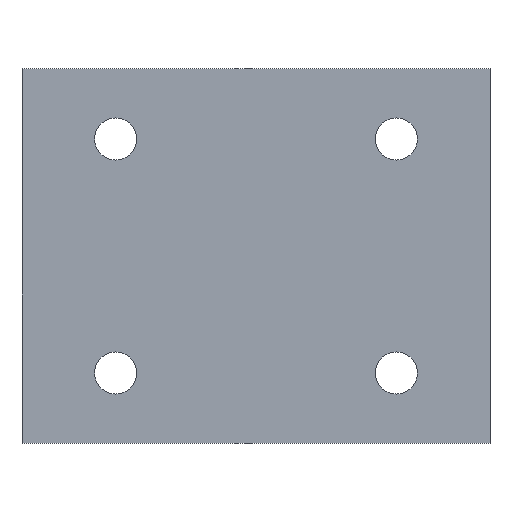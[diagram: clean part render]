
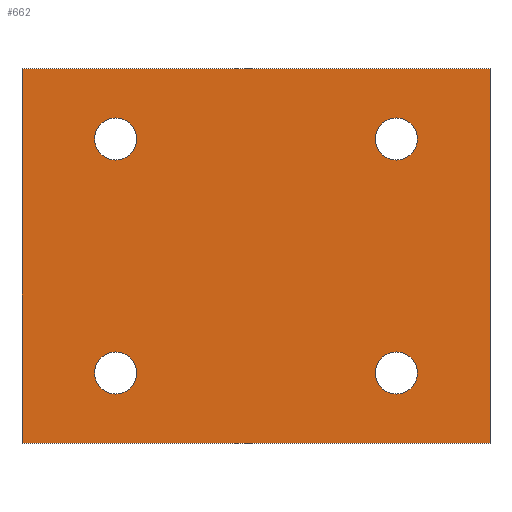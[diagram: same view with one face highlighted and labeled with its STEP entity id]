
A CAD part, top view. The second image highlights one B-rep face of the part: STEP entity #662.
In plain terms, the highlighted planar face has unit normal (0, 0, 1).
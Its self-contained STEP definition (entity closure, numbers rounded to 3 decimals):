
#24 = VERTEX_POINT('',#25);
#25 = CARTESIAN_POINT('',(-100.,-80.,20.));
#32 = PLANE('',#33);
#33 = AXIS2_PLACEMENT_3D('',#34,#35,#36);
#34 = CARTESIAN_POINT('',(-100.,-80.,0.));
#35 = DIRECTION('',(0.,1.,0.));
#36 = DIRECTION('',(1.,0.,0.));
#44 = PLANE('',#45);
#45 = AXIS2_PLACEMENT_3D('',#46,#47,#48);
#46 = CARTESIAN_POINT('',(-100.,80.,0.));
#47 = DIRECTION('',(1.,0.,-0.));
#48 = DIRECTION('',(0.,-1.,0.));
#56 = EDGE_CURVE('',#24,#57,#59,.T.);
#57 = VERTEX_POINT('',#58);
#58 = CARTESIAN_POINT('',(100.,-80.,20.));
#59 = SURFACE_CURVE('',#60,(#64,#71),.PCURVE_S1.);
#60 = LINE('',#61,#62);
#61 = CARTESIAN_POINT('',(-100.,-80.,20.));
#62 = VECTOR('',#63,1.);
#63 = DIRECTION('',(1.,0.,0.));
#64 = PCURVE('',#32,#65);
#65 = DEFINITIONAL_REPRESENTATION('',(#66),#70);
#66 = LINE('',#67,#68);
#67 = CARTESIAN_POINT('',(0.,-20.));
#68 = VECTOR('',#69,1.);
#69 = DIRECTION('',(1.,0.));
#70 = ( GEOMETRIC_REPRESENTATION_CONTEXT(2) 
PARAMETRIC_REPRESENTATION_CONTEXT() REPRESENTATION_CONTEXT('2D SPACE',''
  ) );
#71 = PCURVE('',#72,#77);
#72 = PLANE('',#73);
#73 = AXIS2_PLACEMENT_3D('',#74,#75,#76);
#74 = CARTESIAN_POINT('',(0.,0.,20.));
#75 = DIRECTION('',(0.,0.,1.));
#76 = DIRECTION('',(1.,0.,-0.));
#77 = DEFINITIONAL_REPRESENTATION('',(#78),#82);
#78 = LINE('',#79,#80);
#79 = CARTESIAN_POINT('',(-100.,-80.));
#80 = VECTOR('',#81,1.);
#81 = DIRECTION('',(1.,0.));
#82 = ( GEOMETRIC_REPRESENTATION_CONTEXT(2) 
PARAMETRIC_REPRESENTATION_CONTEXT() REPRESENTATION_CONTEXT('2D SPACE',''
  ) );
#100 = PLANE('',#101);
#101 = AXIS2_PLACEMENT_3D('',#102,#103,#104);
#102 = CARTESIAN_POINT('',(100.,-80.,0.));
#103 = DIRECTION('',(-1.,0.,0.));
#104 = DIRECTION('',(0.,1.,0.));
#142 = EDGE_CURVE('',#57,#143,#145,.T.);
#143 = VERTEX_POINT('',#144);
#144 = CARTESIAN_POINT('',(100.,80.,20.));
#145 = SURFACE_CURVE('',#146,(#150,#157),.PCURVE_S1.);
#146 = LINE('',#147,#148);
#147 = CARTESIAN_POINT('',(100.,-80.,20.));
#148 = VECTOR('',#149,1.);
#149 = DIRECTION('',(0.,1.,0.));
#150 = PCURVE('',#100,#151);
#151 = DEFINITIONAL_REPRESENTATION('',(#152),#156);
#152 = LINE('',#153,#154);
#153 = CARTESIAN_POINT('',(0.,-20.));
#154 = VECTOR('',#155,1.);
#155 = DIRECTION('',(1.,0.));
#156 = ( GEOMETRIC_REPRESENTATION_CONTEXT(2) 
PARAMETRIC_REPRESENTATION_CONTEXT() REPRESENTATION_CONTEXT('2D SPACE',''
  ) );
#157 = PCURVE('',#72,#158);
#158 = DEFINITIONAL_REPRESENTATION('',(#159),#163);
#159 = LINE('',#160,#161);
#160 = CARTESIAN_POINT('',(100.,-80.));
#161 = VECTOR('',#162,1.);
#162 = DIRECTION('',(0.,1.));
#163 = ( GEOMETRIC_REPRESENTATION_CONTEXT(2) 
PARAMETRIC_REPRESENTATION_CONTEXT() REPRESENTATION_CONTEXT('2D SPACE',''
  ) );
#181 = PLANE('',#182);
#182 = AXIS2_PLACEMENT_3D('',#183,#184,#185);
#183 = CARTESIAN_POINT('',(100.,80.,0.));
#184 = DIRECTION('',(0.,-1.,0.));
#185 = DIRECTION('',(-1.,0.,0.));
#218 = EDGE_CURVE('',#143,#219,#221,.T.);
#219 = VERTEX_POINT('',#220);
#220 = CARTESIAN_POINT('',(-100.,80.,20.));
#221 = SURFACE_CURVE('',#222,(#226,#233),.PCURVE_S1.);
#222 = LINE('',#223,#224);
#223 = CARTESIAN_POINT('',(100.,80.,20.));
#224 = VECTOR('',#225,1.);
#225 = DIRECTION('',(-1.,0.,0.));
#226 = PCURVE('',#181,#227);
#227 = DEFINITIONAL_REPRESENTATION('',(#228),#232);
#228 = LINE('',#229,#230);
#229 = CARTESIAN_POINT('',(0.,-20.));
#230 = VECTOR('',#231,1.);
#231 = DIRECTION('',(1.,0.));
#232 = ( GEOMETRIC_REPRESENTATION_CONTEXT(2) 
PARAMETRIC_REPRESENTATION_CONTEXT() REPRESENTATION_CONTEXT('2D SPACE',''
  ) );
#233 = PCURVE('',#72,#234);
#234 = DEFINITIONAL_REPRESENTATION('',(#235),#239);
#235 = LINE('',#236,#237);
#236 = CARTESIAN_POINT('',(100.,80.));
#237 = VECTOR('',#238,1.);
#238 = DIRECTION('',(-1.,0.));
#239 = ( GEOMETRIC_REPRESENTATION_CONTEXT(2) 
PARAMETRIC_REPRESENTATION_CONTEXT() REPRESENTATION_CONTEXT('2D SPACE',''
  ) );
#289 = EDGE_CURVE('',#219,#24,#290,.T.);
#290 = SURFACE_CURVE('',#291,(#295,#302),.PCURVE_S1.);
#291 = LINE('',#292,#293);
#292 = CARTESIAN_POINT('',(-100.,80.,20.));
#293 = VECTOR('',#294,1.);
#294 = DIRECTION('',(0.,-1.,0.));
#295 = PCURVE('',#44,#296);
#296 = DEFINITIONAL_REPRESENTATION('',(#297),#301);
#297 = LINE('',#298,#299);
#298 = CARTESIAN_POINT('',(0.,-20.));
#299 = VECTOR('',#300,1.);
#300 = DIRECTION('',(1.,0.));
#301 = ( GEOMETRIC_REPRESENTATION_CONTEXT(2) 
PARAMETRIC_REPRESENTATION_CONTEXT() REPRESENTATION_CONTEXT('2D SPACE',''
  ) );
#302 = PCURVE('',#72,#303);
#303 = DEFINITIONAL_REPRESENTATION('',(#304),#308);
#304 = LINE('',#305,#306);
#305 = CARTESIAN_POINT('',(-100.,80.));
#306 = VECTOR('',#307,1.);
#307 = DIRECTION('',(0.,-1.));
#308 = ( GEOMETRIC_REPRESENTATION_CONTEXT(2) 
PARAMETRIC_REPRESENTATION_CONTEXT() REPRESENTATION_CONTEXT('2D SPACE',''
  ) );
#338 = VERTEX_POINT('',#339);
#339 = CARTESIAN_POINT('',(-51.,-50.,20.));
#346 = CYLINDRICAL_SURFACE('',#347,9.);
#347 = AXIS2_PLACEMENT_3D('',#348,#349,#350);
#348 = CARTESIAN_POINT('',(-60.,-50.,0.));
#349 = DIRECTION('',(-0.,-0.,-1.));
#350 = DIRECTION('',(1.,0.,-0.));
#365 = EDGE_CURVE('',#338,#338,#366,.T.);
#366 = SURFACE_CURVE('',#367,(#372,#379),.PCURVE_S1.);
#367 = CIRCLE('',#368,9.);
#368 = AXIS2_PLACEMENT_3D('',#369,#370,#371);
#369 = CARTESIAN_POINT('',(-60.,-50.,20.));
#370 = DIRECTION('',(0.,0.,1.));
#371 = DIRECTION('',(1.,0.,-0.));
#372 = PCURVE('',#346,#373);
#373 = DEFINITIONAL_REPRESENTATION('',(#374),#378);
#374 = LINE('',#375,#376);
#375 = CARTESIAN_POINT('',(-0.,-20.));
#376 = VECTOR('',#377,1.);
#377 = DIRECTION('',(-1.,0.));
#378 = ( GEOMETRIC_REPRESENTATION_CONTEXT(2) 
PARAMETRIC_REPRESENTATION_CONTEXT() REPRESENTATION_CONTEXT('2D SPACE',''
  ) );
#379 = PCURVE('',#72,#380);
#380 = DEFINITIONAL_REPRESENTATION('',(#381),#385);
#381 = CIRCLE('',#382,9.);
#382 = AXIS2_PLACEMENT_2D('',#383,#384);
#383 = CARTESIAN_POINT('',(-60.,-50.));
#384 = DIRECTION('',(1.,0.));
#385 = ( GEOMETRIC_REPRESENTATION_CONTEXT(2) 
PARAMETRIC_REPRESENTATION_CONTEXT() REPRESENTATION_CONTEXT('2D SPACE',''
  ) );
#416 = VERTEX_POINT('',#417);
#417 = CARTESIAN_POINT('',(-51.,50.,20.));
#424 = CYLINDRICAL_SURFACE('',#425,9.);
#425 = AXIS2_PLACEMENT_3D('',#426,#427,#428);
#426 = CARTESIAN_POINT('',(-60.,50.,0.));
#427 = DIRECTION('',(-0.,-0.,-1.));
#428 = DIRECTION('',(1.,0.,-0.));
#443 = EDGE_CURVE('',#416,#416,#444,.T.);
#444 = SURFACE_CURVE('',#445,(#450,#457),.PCURVE_S1.);
#445 = CIRCLE('',#446,9.);
#446 = AXIS2_PLACEMENT_3D('',#447,#448,#449);
#447 = CARTESIAN_POINT('',(-60.,50.,20.));
#448 = DIRECTION('',(0.,0.,1.));
#449 = DIRECTION('',(1.,0.,-0.));
#450 = PCURVE('',#424,#451);
#451 = DEFINITIONAL_REPRESENTATION('',(#452),#456);
#452 = LINE('',#453,#454);
#453 = CARTESIAN_POINT('',(-0.,-20.));
#454 = VECTOR('',#455,1.);
#455 = DIRECTION('',(-1.,0.));
#456 = ( GEOMETRIC_REPRESENTATION_CONTEXT(2) 
PARAMETRIC_REPRESENTATION_CONTEXT() REPRESENTATION_CONTEXT('2D SPACE',''
  ) );
#457 = PCURVE('',#72,#458);
#458 = DEFINITIONAL_REPRESENTATION('',(#459),#463);
#459 = CIRCLE('',#460,9.);
#460 = AXIS2_PLACEMENT_2D('',#461,#462);
#461 = CARTESIAN_POINT('',(-60.,50.));
#462 = DIRECTION('',(1.,0.));
#463 = ( GEOMETRIC_REPRESENTATION_CONTEXT(2) 
PARAMETRIC_REPRESENTATION_CONTEXT() REPRESENTATION_CONTEXT('2D SPACE',''
  ) );
#494 = VERTEX_POINT('',#495);
#495 = CARTESIAN_POINT('',(69.,-50.,20.));
#502 = CYLINDRICAL_SURFACE('',#503,9.);
#503 = AXIS2_PLACEMENT_3D('',#504,#505,#506);
#504 = CARTESIAN_POINT('',(60.,-50.,0.));
#505 = DIRECTION('',(-0.,-0.,-1.));
#506 = DIRECTION('',(1.,0.,-0.));
#521 = EDGE_CURVE('',#494,#494,#522,.T.);
#522 = SURFACE_CURVE('',#523,(#528,#535),.PCURVE_S1.);
#523 = CIRCLE('',#524,9.);
#524 = AXIS2_PLACEMENT_3D('',#525,#526,#527);
#525 = CARTESIAN_POINT('',(60.,-50.,20.));
#526 = DIRECTION('',(0.,0.,1.));
#527 = DIRECTION('',(1.,0.,-0.));
#528 = PCURVE('',#502,#529);
#529 = DEFINITIONAL_REPRESENTATION('',(#530),#534);
#530 = LINE('',#531,#532);
#531 = CARTESIAN_POINT('',(-0.,-20.));
#532 = VECTOR('',#533,1.);
#533 = DIRECTION('',(-1.,0.));
#534 = ( GEOMETRIC_REPRESENTATION_CONTEXT(2) 
PARAMETRIC_REPRESENTATION_CONTEXT() REPRESENTATION_CONTEXT('2D SPACE',''
  ) );
#535 = PCURVE('',#72,#536);
#536 = DEFINITIONAL_REPRESENTATION('',(#537),#541);
#537 = CIRCLE('',#538,9.);
#538 = AXIS2_PLACEMENT_2D('',#539,#540);
#539 = CARTESIAN_POINT('',(60.,-50.));
#540 = DIRECTION('',(1.,0.));
#541 = ( GEOMETRIC_REPRESENTATION_CONTEXT(2) 
PARAMETRIC_REPRESENTATION_CONTEXT() REPRESENTATION_CONTEXT('2D SPACE',''
  ) );
#572 = VERTEX_POINT('',#573);
#573 = CARTESIAN_POINT('',(69.,50.,20.));
#580 = CYLINDRICAL_SURFACE('',#581,9.);
#581 = AXIS2_PLACEMENT_3D('',#582,#583,#584);
#582 = CARTESIAN_POINT('',(60.,50.,0.));
#583 = DIRECTION('',(-0.,-0.,-1.));
#584 = DIRECTION('',(1.,0.,-0.));
#599 = EDGE_CURVE('',#572,#572,#600,.T.);
#600 = SURFACE_CURVE('',#601,(#606,#613),.PCURVE_S1.);
#601 = CIRCLE('',#602,9.);
#602 = AXIS2_PLACEMENT_3D('',#603,#604,#605);
#603 = CARTESIAN_POINT('',(60.,50.,20.));
#604 = DIRECTION('',(0.,0.,1.));
#605 = DIRECTION('',(1.,0.,-0.));
#606 = PCURVE('',#580,#607);
#607 = DEFINITIONAL_REPRESENTATION('',(#608),#612);
#608 = LINE('',#609,#610);
#609 = CARTESIAN_POINT('',(-0.,-20.));
#610 = VECTOR('',#611,1.);
#611 = DIRECTION('',(-1.,0.));
#612 = ( GEOMETRIC_REPRESENTATION_CONTEXT(2) 
PARAMETRIC_REPRESENTATION_CONTEXT() REPRESENTATION_CONTEXT('2D SPACE',''
  ) );
#613 = PCURVE('',#72,#614);
#614 = DEFINITIONAL_REPRESENTATION('',(#615),#619);
#615 = CIRCLE('',#616,9.);
#616 = AXIS2_PLACEMENT_2D('',#617,#618);
#617 = CARTESIAN_POINT('',(60.,50.));
#618 = DIRECTION('',(1.,0.));
#619 = ( GEOMETRIC_REPRESENTATION_CONTEXT(2) 
PARAMETRIC_REPRESENTATION_CONTEXT() REPRESENTATION_CONTEXT('2D SPACE',''
  ) );
#662 = ADVANCED_FACE('',(#663,#669,#672,#675,#678),#72,.T.);
#663 = FACE_BOUND('',#664,.T.);
#664 = EDGE_LOOP('',(#665,#666,#667,#668));
#665 = ORIENTED_EDGE('',*,*,#56,.T.);
#666 = ORIENTED_EDGE('',*,*,#142,.T.);
#667 = ORIENTED_EDGE('',*,*,#218,.T.);
#668 = ORIENTED_EDGE('',*,*,#289,.T.);
#669 = FACE_BOUND('',#670,.F.);
#670 = EDGE_LOOP('',(#671));
#671 = ORIENTED_EDGE('',*,*,#365,.T.);
#672 = FACE_BOUND('',#673,.F.);
#673 = EDGE_LOOP('',(#674));
#674 = ORIENTED_EDGE('',*,*,#443,.T.);
#675 = FACE_BOUND('',#676,.F.);
#676 = EDGE_LOOP('',(#677));
#677 = ORIENTED_EDGE('',*,*,#521,.T.);
#678 = FACE_BOUND('',#679,.F.);
#679 = EDGE_LOOP('',(#680));
#680 = ORIENTED_EDGE('',*,*,#599,.T.);
